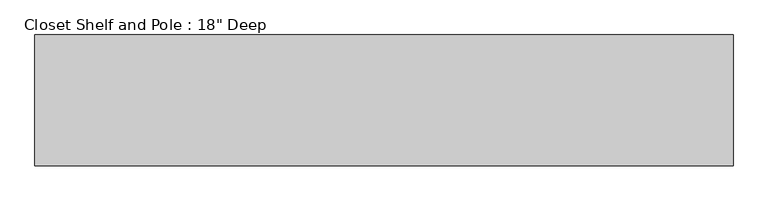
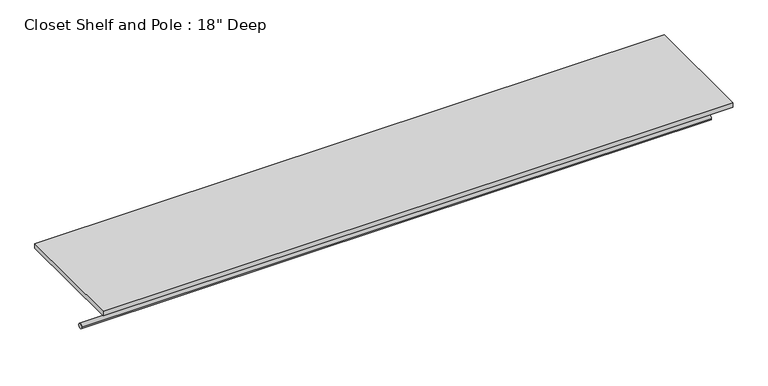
"""IFC4 building model written with IfcOpenShell, lengths in millimetres: proxy geometry."""

from ifc_helpers import new_model, si_unit, point, frame, frame_2d, origin, place, context, project, spatial, polyline, circle_curve, trimmed, segment, composite_curve, outline, extrude, source, transform, mapped, element, save


def proxy_f0b1373b(model_context):
    return source(origin(), model_context, "Body", "SweptSolid", [
        extrude(outline(composite_curve([segment(trimmed(circle_curve(frame_2d((-304.8, 1676.4)), 9.525), [point((-314.325, 1676.4))], [point((-295.275, 1676.4))], False, "CARTESIAN"), True, "CONTINUOUS"), segment(trimmed(circle_curve(frame_2d((-304.8, 1676.4)), 9.525), [point((-295.275, 1676.4))], [point((-314.325, 1676.4))], False, "CARTESIAN"), True, "CONTINUOUS")], self_intersect=False)), frame((0.0, 0.0, 0.0), z_axis=(1.0, 0.0, 0.0), x_axis=(0.0, 1.0, 0.0)), (0.0, 0.0, 1.0), 2438.4),
        extrude(outline(polyline([(2438.4, 0.0), (2438.4, -457.2), (0.0, -457.2), (0.0, 0.0), (2438.4, 0.0)])), frame((0.0, 0.0, 1809.75), z_axis=(0.0, 0.0, 1.0), x_axis=(1.0, 0.0, 0.0)), (0.0, 0.0, 1.0), 19.05),
    ])


if __name__ == "__main__":
    model = new_model("IFC4")
    model_context = context("Model", 3, world=origin())
    ifc_project = project(units=[si_unit("LENGTHUNIT", "METRE", prefix="MILLI")], contexts=[model_context])
    site = spatial("IfcSite", under=ifc_project)
    building = spatial("IfcBuilding", under=site)
    placement = place(None, origin())
    proxy_shape = proxy_f0b1373b(model_context)
    element("IfcBuildingElementProxy", 1, Name="Closet Shelf and Pole : 18\" Deep", ObjectType="Closet Shelf and Pole : 18\" Deep", at=placement, inside=building, context=model_context, shape_type="MappedRepresentation", body=[
        mapped(proxy_shape, transform((0.0, 0.0, 0.0), x_axis=(1.0, 0.0, 0.0), y_axis=(0.0, 1.0, 0.0), z_axis=(0.0, 0.0, 1.0))),
    ])
    save(model, "model.ifc")
